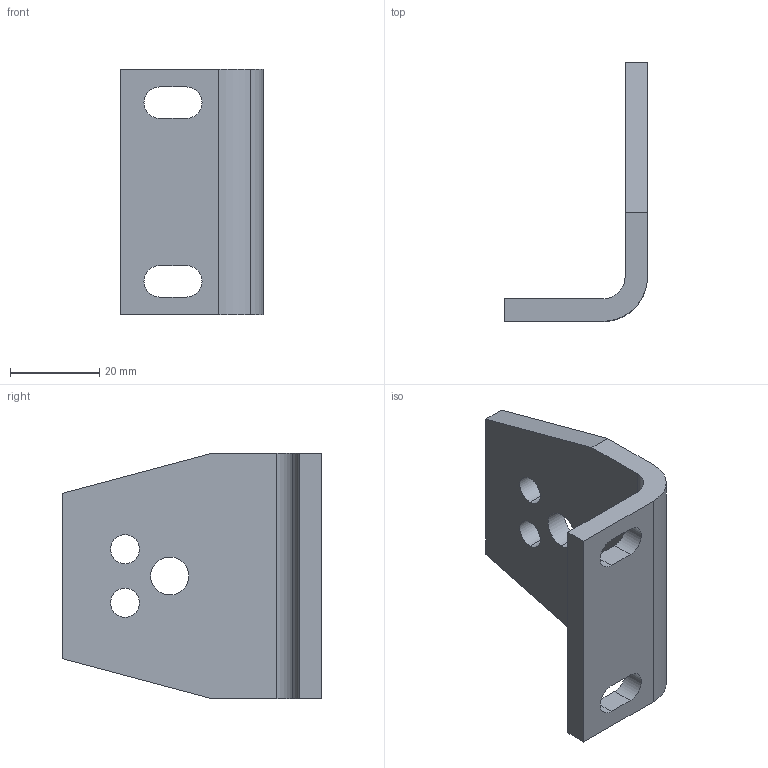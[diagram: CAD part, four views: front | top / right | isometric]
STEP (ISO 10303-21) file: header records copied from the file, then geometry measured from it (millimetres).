
FILE_DESCRIPTION((''),'2;1');
FILE_NAME('D:\ROSTA\Gummifederelemente\3D\WS15-18_06590002.stp','2005-02-07T06:50:25',('Administrator'),(''),'Autodesk Inventor 8','Autodesk Inventor 8','');
FILE_SCHEMA(('AUTOMOTIVE_DESIGN { 1 0 10303 214 1 1 1 1 }'));
Length unit declared in the file: millimetre
Products named in the file (1): 4.4.6867-000
Bounding box: 32 x 58 x 55 mm (x, y, z)
Volume: 19557.9 mm3; surface area: 9790.4 mm2
Topology: 1 solids, 1 shells, 28 faces, 78 edges, 52 vertices
Faces by surface type: cylinder 14, plane 14
Entity records: 953 total; most frequent: DIRECTION 164, CARTESIAN_POINT 159, ORIENTED_EDGE 156, EDGE_CURVE 78, AXIS2_PLACEMENT_3D 57, VERTEX_POINT 52, VECTOR 50, LINE 50
